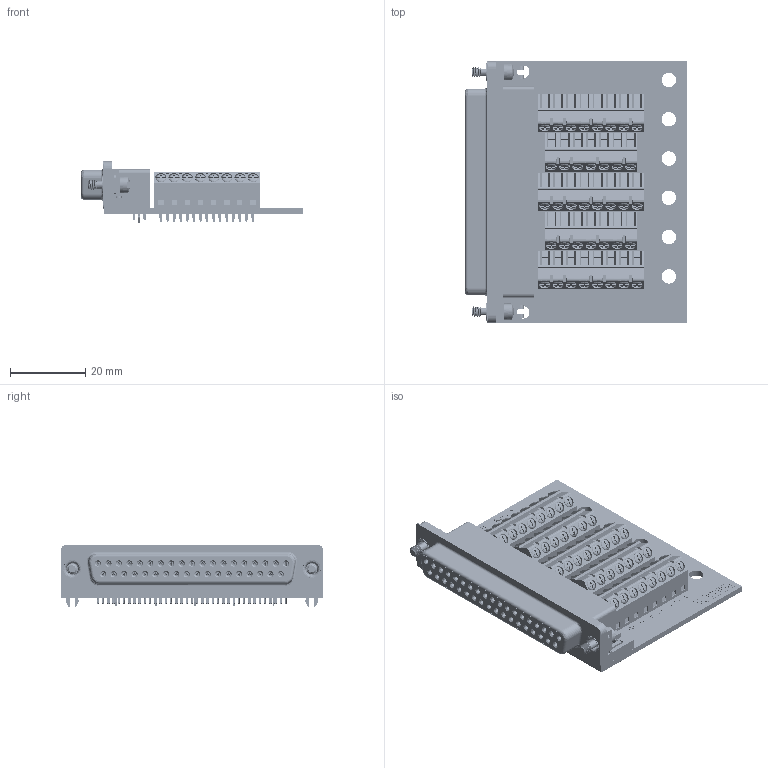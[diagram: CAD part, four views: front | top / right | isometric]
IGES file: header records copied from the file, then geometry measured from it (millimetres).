
Start section: SolidWorks IGES file using analytic representation for surfaces
Global section: file name: W:\end-user\products\brk\brksd\brksd37f\3dmodel\2021-09-21-rev_a-2\render\igs\brksd37f-c_rev_a.igs; native system: SolidWorks 2018; preprocessor: SolidWorks 2018; author: leviroy; date: 210922.160054; units: millimetre
Bounding box: 58.88 x 69.36 x 16.32 mm (x, y, z)
Surface area: 34949.5 mm2 (no closed solid volume)
Topology: 0 solids, 0 shells, 8380 faces, 67014 edges, 67012 vertices
Faces by surface type: bspline 6885, revolution 1495
